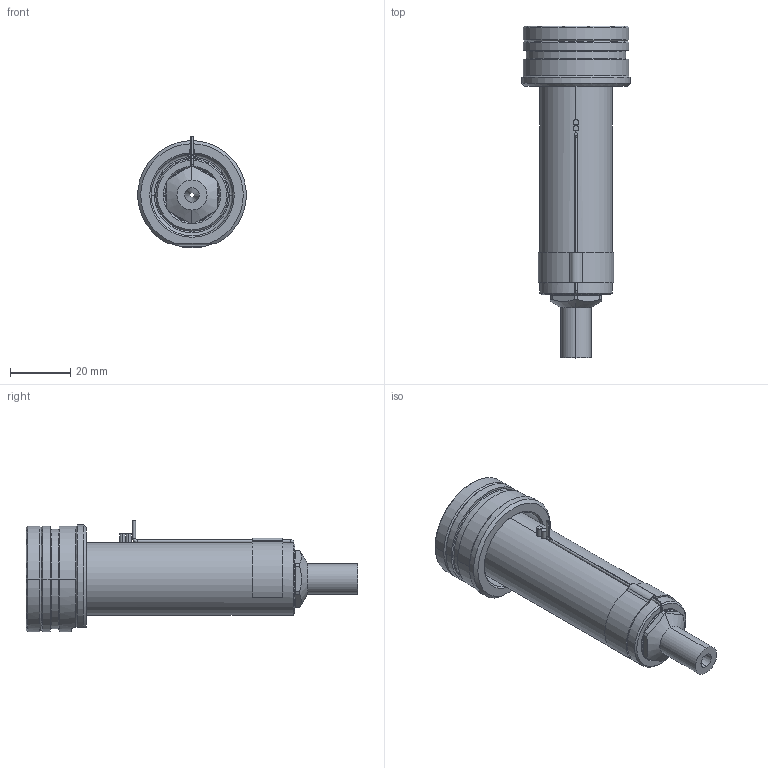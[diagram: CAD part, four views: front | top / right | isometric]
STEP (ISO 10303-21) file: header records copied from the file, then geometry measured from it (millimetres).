
FILE_DESCRIPTION((''),'2;1');
FILE_NAME('EO06_VG-ST_ESG_080_SW','2024-02-19T12:40:06',('sundharh'),(''),'CREO PARAMETRIC BY PTC INC, 2023154','CREO PARAMETRIC BY PTC INC, 2023154','');
FILE_SCHEMA(('CONFIG_CONTROL_DESIGN'));
Length unit declared in the file: millimetre
Products named in the file (1): EO06_VG-ST_ESG_080_SW
Bounding box: 35.93 x 110 x 37 mm (x, y, z)
Volume: 48191.6 mm3; surface area: 14843.4 mm2
Topology: 2 solids, 2 shells, 176 faces, 448 edges, 273 vertices
Faces by surface type: cylinder 68, plane 41, cone 34, torus 21, bspline 10, sphere 2
Entity records: 6077 total; most frequent: CARTESIAN_POINT 1759, DIRECTION 954, ORIENTED_EDGE 884, EDGE_CURVE 442, AXIS2_PLACEMENT_3D 399, VERTEX_POINT 273, CIRCLE 233, EDGE_LOOP 189
